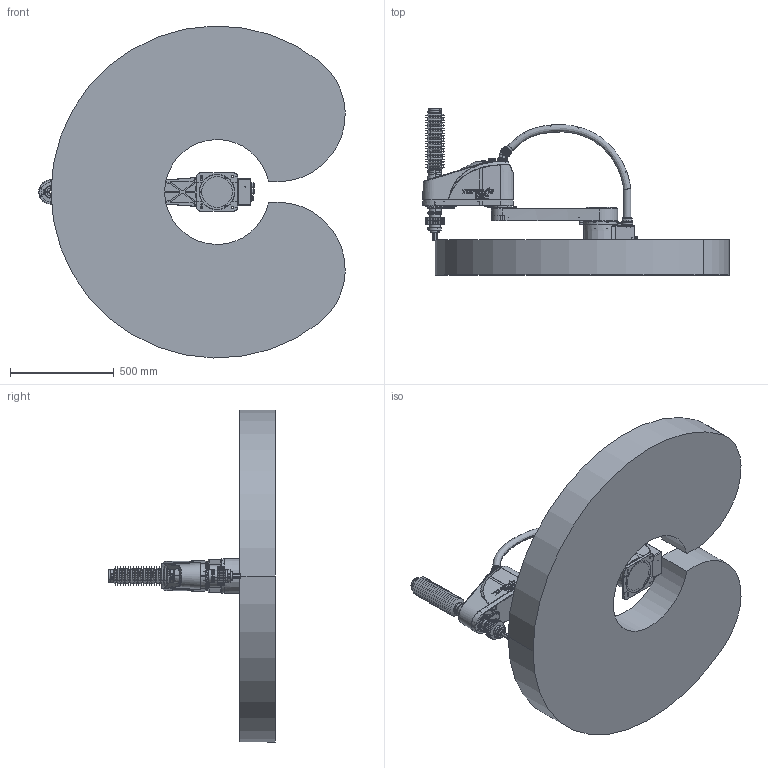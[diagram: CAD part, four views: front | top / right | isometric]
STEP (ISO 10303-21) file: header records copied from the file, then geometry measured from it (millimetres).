
FILE_DESCRIPTION (( 'STEP AP203' ), '1' );
FILE_NAME ('TRH005-800-170-C.STEP', '2025-01-15T08:15:23', ( 'Windows User' ), ( 'P R C' ), 'SwSTEP 2.0', 'SolidWorks 2023', '' );
FILE_SCHEMA (( 'CONFIG_CONTROL_DESIGN' ));
Length unit declared in the file: millimetre
Products named in the file (8): 复件 TRH005-800-170-C-12203 运动范围^TRH005-800-170-C可拖动机器人（SW2023）; 复件 防护罩^TRH005-800-170-C可拖动机器人（SW2023）; 复件 丝杆-1^TRH005-800-170-C可拖动机器人（SW2023）; 复件 复件 复件 波纹管^TRH005-800-170-C可拖动机器人（SW2023）; TRH005-800-170-C; 复件 复件 TRH0580-3-02_1大臂模块1^TRH005-800-170-C可拖动机器人（SW2023）; 复件 小臂模块^TRH005-800-170-C可拖动机器人（SW2023）; 复件 800C底座^TRH005-800-170-C可拖动机器人（SW2023）
Assembly tree (7 placements, depth 2):
  TRH005-800-170-C
    复件 复件 TRH0580-3-02_1大臂模块1^TRH005-800-170-C可拖动机器人（SW2023）
    复件 小臂模块^TRH005-800-170-C可拖动机器人（SW2023）
    复件 复件 复件 波纹管^TRH005-800-170-C可拖动机器人（SW2023）
    复件 TRH005-800-170-C-12203 运动范围^TRH005-800-170-C可拖动机器人（SW2023）
    复件 800C底座^TRH005-800-170-C可拖动机器人（SW2023）
    复件 防护罩^TRH005-800-170-C可拖动机器人（SW2023）
    复件 丝杆-1^TRH005-800-170-C可拖动机器人（SW2023）
Bounding box: 1476.21 x 802 x 1599.53 mm (x, y, z)
Volume: 271726350.9 mm3; surface area: 6444714.7 mm2
Topology: 2 solids, 194 shells, 3220 faces, 9423 edges, 6341 vertices
Faces by surface type: cylinder 1202, plane 957, cone 558, bspline 315, torus 145, sphere 43
Entity records: 161748 total; most frequent: CARTESIAN_POINT 78663, DIRECTION 16740, ORIENTED_EDGE 16247, EDGE_CURVE 9354, AXIS2_PLACEMENT_3D 6376, VERTEX_POINT 6341, LINE 3988, VECTOR 3988
